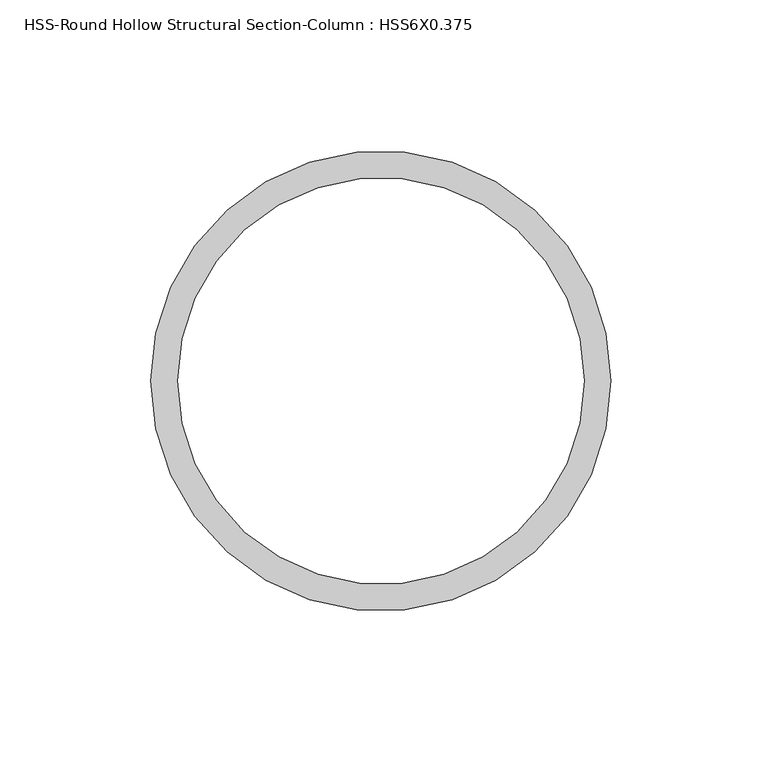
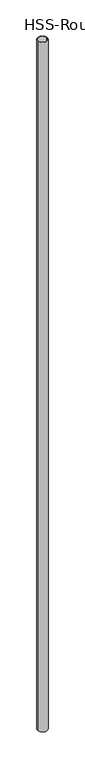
"""IFC4 building model written with IfcOpenShell, lengths in millimetres: column geometry, HSS-Round Hollow Structural Section-Column : HSS6X0.375."""

from ifc_helpers import new_model, si_unit, point, frame, origin, origin_2d, place, context, project, spatial, circle_curve, trimmed, segment, composite_curve, outline, extrude, source, transform, mapped, element, save


def hss_round_hollow_structural_section_column_hss6x0_375_acaf1047(model_context):
    return source(origin(), model_context, "Body", "SweptSolid", [
        extrude(outline(composite_curve([segment(trimmed(circle_curve(origin_2d(), 76.2), [point((-76.2, 0.0))], [point((76.2, 0.0))], False, "CARTESIAN"), True, "CONTINUOUS"), segment(trimmed(circle_curve(origin_2d(), 76.2), [point((76.2, 0.0))], [point((-76.2, 0.0))], False, "CARTESIAN"), True, "CONTINUOUS")], self_intersect=False), holes=[composite_curve([segment(trimmed(circle_curve(origin_2d(), 67.3354), [point((-67.3354, 0.0))], [point((67.3354, 0.0))], True, "CARTESIAN"), True, "CONTINUOUS"), segment(trimmed(circle_curve(origin_2d(), 67.3354), [point((67.3354, 0.0))], [point((-67.3354, 0.0))], True, "CARTESIAN"), True, "CONTINUOUS")], self_intersect=False)]), frame((0.0, 0.0, 44500.8), z_axis=(0.0, 0.0, 1.0), x_axis=(1.0, 0.0, 0.0)), (0.0, 0.0, 1.0), 11577.2),
    ])


if __name__ == "__main__":
    model = new_model("IFC4")
    model_context = context("Model", 3, world=origin())
    ifc_project = project(units=[si_unit("LENGTHUNIT", "METRE", prefix="MILLI")], contexts=[model_context])
    site = spatial("IfcSite", under=ifc_project)
    building = spatial("IfcBuilding", under=site)
    placement = place(None, origin())
    hss_round_hollow_structural_section_column_hss6x0_375_shape = hss_round_hollow_structural_section_column_hss6x0_375_acaf1047(model_context)
    element("IfcColumn", 1, ObjectType="HSS-Round Hollow Structural Section-Column : HSS6X0.375", at=placement, inside=building, context=model_context, shape_type="MappedRepresentation", body=[
        mapped(hss_round_hollow_structural_section_column_hss6x0_375_shape, transform((0.0, 0.0, 0.0), x_axis=(1.0, 0.0, 0.0), y_axis=(0.0, 1.0, 0.0), z_axis=(0.0, 0.0, 1.0))),
    ])
    save(model, "model.ifc")
